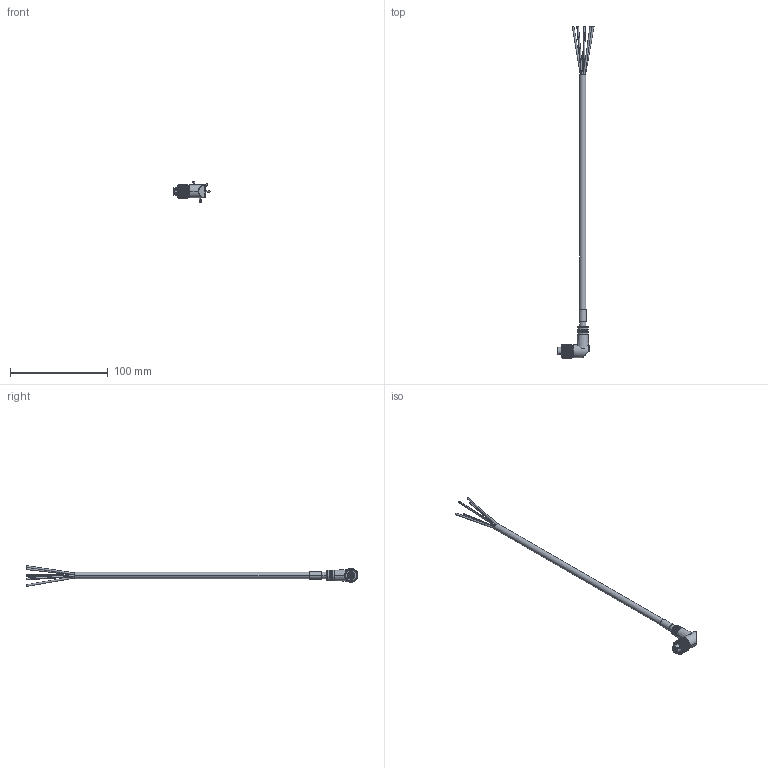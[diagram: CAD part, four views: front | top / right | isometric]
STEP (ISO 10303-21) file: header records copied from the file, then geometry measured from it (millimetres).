
FILE_DESCRIPTION((''),'2;1');
FILE_NAME('889D-R8AB-2','2013-12-27T',('20019289'),('Rockwell Automation'),'PRO/ENGINEER BY PARAMETRIC TECHNOLOGY CORPORATION, 2010140','PRO/ENGINEER BY PARAMETRIC TECHNOLOGY CORPORATION, 2010140','');
FILE_SCHEMA(('CONFIG_CONTROL_DESIGN'));
Length unit declared in the file: inch
Products named in the file (1): 889D-R8AB-2
Bounding box: 36.87 x 339.65 x 21.36 mm (x, y, z)
Volume: 14245.2 mm3; surface area: 10375.6 mm2
Topology: 1 solids, 1 shells, 480 faces, 1133 edges, 682 vertices
Faces by surface type: plane 238, cylinder 165, cone 60, torus 13, sphere 2, bspline 2
Entity records: 14421 total; most frequent: CARTESIAN_POINT 3267, DIRECTION 2424, ORIENTED_EDGE 2266, EDGE_CURVE 1133, AXIS2_PLACEMENT_3D 928, VERTEX_POINT 682, VECTOR 568, LINE 568
